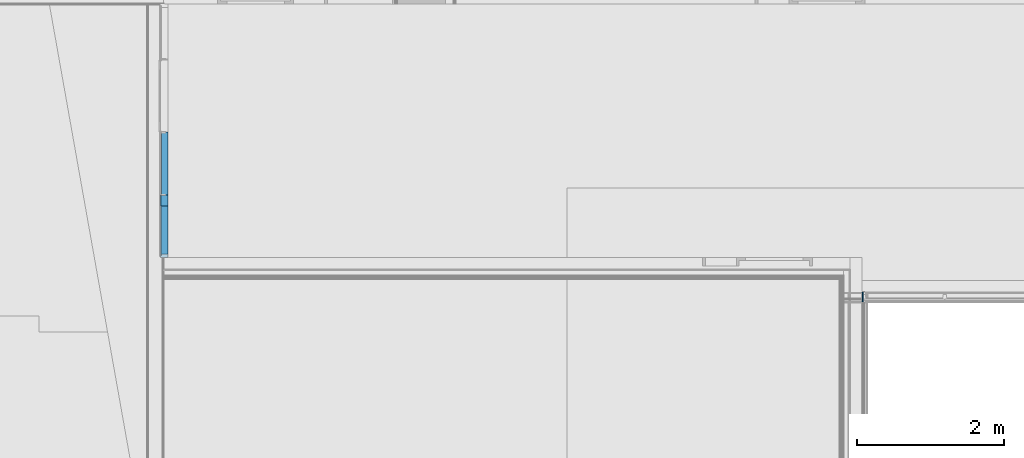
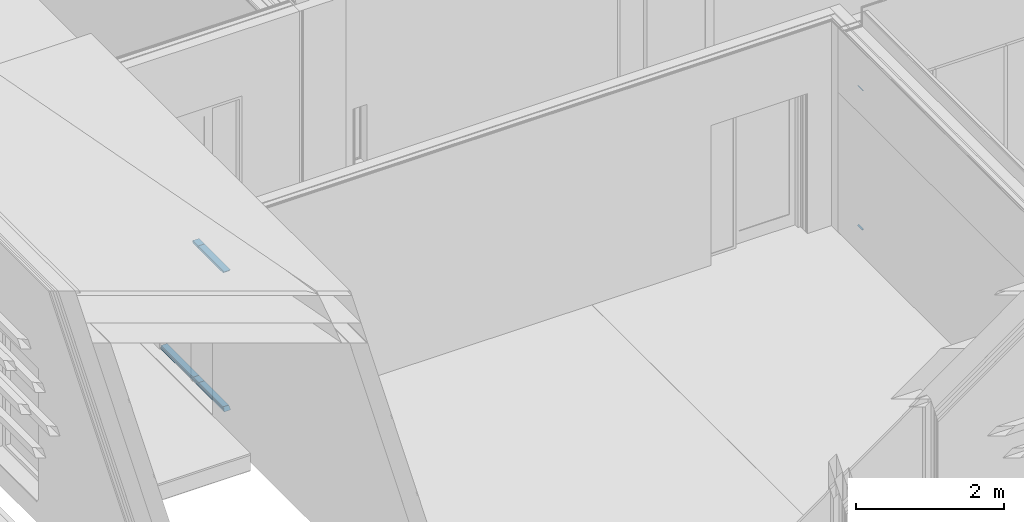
# One storey, part 48 of 139: 7 members, 2 elements without a shape of their own.
"""IFC2X3 building model written with IfcOpenShell, lengths in millimetres."""

from ifc_helpers import new_model, entity, si_unit, converted_unit, derived_unit, money_unit, direction, frame, origin_with_axes, place, context, subcontext, project, spatial, faceted_brep, material, type_object, element, aggregate, save


model = new_model("IFC2X3")

# Units and contexts
model_context = context("Model", 3, precision=0.01, world=origin_with_axes(), true_north=direction((0.0, 1.0)))
body_context = subcontext(model_context, "Body", "Model", "MODEL_VIEW")
ifc_project = project(units=[si_unit("LENGTHUNIT", "METRE", prefix="MILLI"), si_unit("AREAUNIT", "SQUARE_METRE"), si_unit("VOLUMEUNIT", "CUBIC_METRE"), converted_unit("PLANEANGLEUNIT", "DEGREE", entity("IfcPlaneAngleMeasure", 0.0174532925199), si_unit("PLANEANGLEUNIT", "RADIAN"), dimensions=[0, 0, 0, 0, 0, 0, 0]), money_unit("EUR"), converted_unit("TIMEUNIT", "Year", entity("IfcTimeMeasure", 31556926.0), si_unit("TIMEUNIT", "SECOND"), dimensions=[0, 0, 1, 0, 0, 0, 0]), si_unit("MASSUNIT", "GRAM", prefix="KILO"), si_unit("THERMODYNAMICTEMPERATUREUNIT", "DEGREE_CELSIUS"), si_unit("LUMINOUSINTENSITYUNIT", "LUMEN"), si_unit("ENERGYUNIT", "JOULE", prefix="MEGA"), derived_unit("THERMALCONDUCTANCEUNIT", [(si_unit("POWERUNIT", "WATT"), 1), (si_unit("LENGTHUNIT", "METRE"), -1), (si_unit("THERMODYNAMICTEMPERATUREUNIT", "KELVIN"), -1)]), derived_unit("SPECIFICHEATCAPACITYUNIT", [(si_unit("ENERGYUNIT", "JOULE"), 1), (si_unit("MASSUNIT", "GRAM", prefix="KILO"), -1), (si_unit("THERMODYNAMICTEMPERATUREUNIT", "KELVIN"), -1)]), derived_unit("MASSDENSITYUNIT", [(si_unit("MASSUNIT", "GRAM", prefix="KILO"), 1), (si_unit("VOLUMEUNIT", "CUBIC_METRE"), -1)])], contexts=[model_context])

# Site, building, storey
site_placement = place(None, origin_with_axes())
site = spatial("IfcSite", under=ifc_project, at=site_placement, Name="Kolde pst 67a", CompositionType="ELEMENT")
building_placement = place(site_placement, origin_with_axes())
building = spatial("IfcBuilding", under=site, at=building_placement, Name="Riigigümnaasium", CompositionType="ELEMENT")
storey_placement = place(building_placement, frame((0.0, 0.0, 4600.0), z_axis=(0.0, 0.0, 1.0), x_axis=(1.0, 0.0, 0.0)))
storey = spatial("IfcBuildingStorey", under=building, at=storey_placement, Name="2. korrus", CompositionType="ELEMENT", Elevation=4600.0)

# Curtain wall, members
curtain_wall_type = type_object("IfcCurtainWallType", Name="Curtain Wall Type", PredefinedType="NOTDEFINED")
curtain_wall_1_placement = place(storey_placement, frame((3208.80952236, 58094.9979478, 0.0), z_axis=(0.0, 0.0, 1.0), x_axis=(1.0, 0.0, 0.0)))
curtain_wall_1 = element("IfcCurtainWall", 1, at=curtain_wall_1_placement, inside=storey, type_object=curtain_wall_type, Name="KLAASSEIN")
ifc_material_1 = material(Name="_GENEERILINE MATERJAL")
member_type_1 = type_object("IfcMemberType", Name="Boundary Frame 50 x 100", PredefinedType="MEMBER")
member_1_placement = place(curtain_wall_1_placement, frame((0.0, -1350.00001166, 2300.00008941), z_axis=(0.0, -1.0, 0.0), x_axis=(0.0, 0.0, 1.0)))
member_1 = element("IfcMember", 2, at=member_1_placement, type_object=member_type_1, material=ifc_material_1, Name="RF RAAM SERV-203", ObjectType="MEMBER", context=body_context, shape_type="Brep", body=[
    faceted_brep([(-50.0, -10.0, 0.0), (-50.0, -100.0, 0.0), (-50.0, -100.0, 149.99998834), (-50.0, -10.0, 149.99998834), (-25.0, -10.0, 0.0), (-25.0, 0.0, 0.0), (0.0, 0.0, 0.0), (0.0, -100.0, 0.0), (0.0, -100.0, 149.99998834), (-25.0, -10.0, 149.99998834), (0.0, 0.0, 149.99998834), (-25.0, 0.0, 149.99998834)], [[[0, 1, 2, 3]], [[4, 5, 6, 7, 1, 0]], [[1, 7, 8, 2]], [[9, 3, 2, 8, 10, 11]], [[9, 4, 0, 3]], [[5, 4, 9, 11]], [[11, 10, 6, 5]], [[7, 6, 10, 8]]]),
])
member_2_placement = place(curtain_wall_1_placement, frame((0.0, -1350.00001166, 0.0), z_axis=(0.0, -1.0, 0.0), x_axis=(0.0, 0.0, 1.0)))
member_2 = element("IfcMember", 3, at=member_2_placement, type_object=member_type_1, material=ifc_material_1, Name="RF RAAM SERV-199", ObjectType="MEMBER", context=body_context, shape_type="Brep", body=[
    faceted_brep([(50.0, -10.0, 0.0), (50.0, -10.0, 149.99998834), (50.0, -100.0, 149.99998834), (50.0, -100.0, 0.0), (25.0, -10.0, 149.99998834), (25.0, -10.0, 0.0), (25.0, 0.0, 149.99998834), (0.0, 0.0, 149.99998834), (0.0, -100.0, 149.99998834), (0.0, -100.0, 0.0), (0.0, 0.0, 0.0), (25.0, 0.0, 0.0)], [[[0, 1, 2, 3]], [[4, 1, 0, 5]], [[4, 6, 7, 8, 2, 1]], [[3, 2, 8, 9]], [[5, 0, 3, 9, 10, 11]], [[11, 6, 4, 5]], [[6, 11, 10, 7]], [[9, 8, 7, 10]]]),
])
member_3_placement = place(curtain_wall_1_placement, frame((0.0, -1500.0, 2300.00008941), z_axis=(0.0, -1.0, 0.0), x_axis=(0.0, 0.0, 1.0)))
member_3 = element("IfcMember", 4, at=member_3_placement, type_object=member_type_1, material=ifc_material_1, Name="RF RAAM SERV-202", ObjectType="MEMBER", context=body_context, shape_type="Brep", body=[
    faceted_brep([(-50.0, -10.0, 0.0), (-50.0, -100.0, 0.0), (-50.0, -100.0, 655.003525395), (-50.0, -10.0, 655.003525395), (-25.0, -10.0, 0.0), (-25.0, 0.0, 0.0), (0.0, 0.0, 0.0), (0.0, -100.0, 0.0), (0.0, -100.0, 705.003525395), (-25.0, -10.0, 680.003525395), (0.0, 0.0, 705.003525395), (-25.0, 0.0, 680.003525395)], [[[0, 1, 2, 3]], [[4, 5, 6, 7, 1, 0]], [[1, 7, 8, 2]], [[9, 3, 2, 8, 10, 11]], [[9, 4, 0, 3]], [[5, 4, 9, 11]], [[11, 10, 6, 5]], [[7, 6, 10, 8]]]),
])
member_4_placement = place(curtain_wall_1_placement, frame((0.0, -1500.0, 0.0), z_axis=(0.0, -1.0, 0.0), x_axis=(0.0, 0.0, 1.0)))
member_4 = element("IfcMember", 5, at=member_4_placement, type_object=member_type_1, material=ifc_material_1, Name="RF RAAM SERV-200", ObjectType="MEMBER", context=body_context, shape_type="Brep", body=[
    faceted_brep([(50.0, -10.0, 0.0), (50.0, -10.0, 655.003525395), (50.0, -100.0, 655.003525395), (50.0, -100.0, 0.0), (25.0, -10.0, 680.003525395), (25.0, -10.0, 0.0), (25.0, 0.0, 680.003525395), (0.0, 0.0, 705.003525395), (0.0, -100.0, 705.003525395), (0.0, -100.0, 0.0), (0.0, 0.0, 0.0), (25.0, 0.0, 0.0)], [[[0, 1, 2, 3]], [[4, 1, 0, 5]], [[4, 6, 7, 8, 2, 1]], [[3, 2, 8, 9]], [[5, 0, 3, 9, 10, 11]], [[11, 6, 4, 5]], [[6, 11, 10, 7]], [[9, 8, 7, 10]]]),
])
member_5_placement = place(curtain_wall_1_placement, frame((0.0, -500.0, 0.0), z_axis=(0.0, -1.0, 0.0), x_axis=(0.0, 0.0, 1.0)))
member_5 = element("IfcMember", 6, at=member_5_placement, type_object=member_type_1, material=ifc_material_1, Name="RF RAAM SERV-205", ObjectType="MEMBER", context=body_context, shape_type="Brep", body=[
    faceted_brep([(50.0, -10.0, -10.0), (50.0, -10.0, 850.00001166), (50.0, -100.0, 850.00001166), (50.0, -100.0, -10.0), (25.0, -10.0, 850.00001166), (25.0, -10.0, -10.0), (25.0, 0.0, 850.00001166), (0.0, 0.0, 850.00001166), (0.0, -100.0, 850.00001166), (0.0, -100.0, -10.0), (0.0, 0.0, -10.0), (25.0, 0.0, -10.0)], [[[0, 1, 2, 3]], [[4, 1, 0, 5]], [[4, 6, 7, 8, 2, 1]], [[3, 2, 8, 9]], [[5, 0, 3, 9, 10, 11]], [[11, 6, 4, 5]], [[6, 11, 10, 7]], [[9, 8, 7, 10]]]),
])
aggregate(curtain_wall_1, [member_1, member_2, member_3, member_4, member_5])

curtain_wall_2_placement = place(storey_placement, frame((15575.0032916, 55314.9743005, 0.0), z_axis=(0.0, 0.0, 1.0), x_axis=(1.0, 0.0, 0.0)))
curtain_wall_2 = element("IfcCurtainWall", 7, at=curtain_wall_2_placement, inside=storey, type_object=curtain_wall_type, Name="KLAASSEIN")
ifc_material_2 = material(Name="_METALL - alumiinium")
member_type_2 = type_object("IfcMemberType", Name="Boundary Frame 50 x 130", PredefinedType="MEMBER")
member_6_placement = place(curtain_wall_2_placement, frame((-2774.99999979, -0.0339510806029, 2300.00008047), z_axis=(-0.999999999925, -1.22346234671e-05, 0.0), x_axis=(0.0, 0.0, 1.0)))
member_6 = element("IfcMember", 8, at=member_6_placement, type_object=member_type_2, material=ifc_material_2, Name="RF RAAM SERV-037", ObjectType="MEMBER", context=body_context, shape_type="Brep", body=[
    faceted_brep([(-20.0057631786, -30.0, 0.0), (0.0, -30.0, 0.0), (0.0, -30.0, 20.0057631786), (-20.0057631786, 100.0, 0.0), (0.0, 100.0, 0.0), (0.0, 100.0, 20.0057631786)], [[[0, 1, 2]], [[3, 4, 1, 0]], [[1, 4, 5, 2]], [[0, 2, 5, 3]], [[4, 3, 5]]]),
])
member_7_placement = place(curtain_wall_2_placement, frame((-2774.99999979, -0.0339510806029, 0.0), z_axis=(-0.999999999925, -1.22346234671e-05, 0.0), x_axis=(0.0, 0.0, 1.0)))
member_7 = element("IfcMember", 9, at=member_7_placement, type_object=member_type_2, material=ifc_material_2, Name="RF RAAM SERV-035", ObjectType="MEMBER", context=body_context, shape_type="Brep", body=[
    faceted_brep([(20.0057631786, -30.0, 0.0), (0.0, -30.0, 20.0057631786), (0.0, -30.0, 0.0), (20.0057631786, 100.0, 0.0), (0.0, 100.0, 20.0057631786), (0.0, 100.0, 0.0)], [[[0, 1, 2]], [[0, 3, 4, 1]], [[2, 1, 4, 5]], [[3, 0, 2, 5]], [[5, 4, 3]]]),
])
aggregate(curtain_wall_2, [member_6, member_7])

save(model, "model.ifc")
